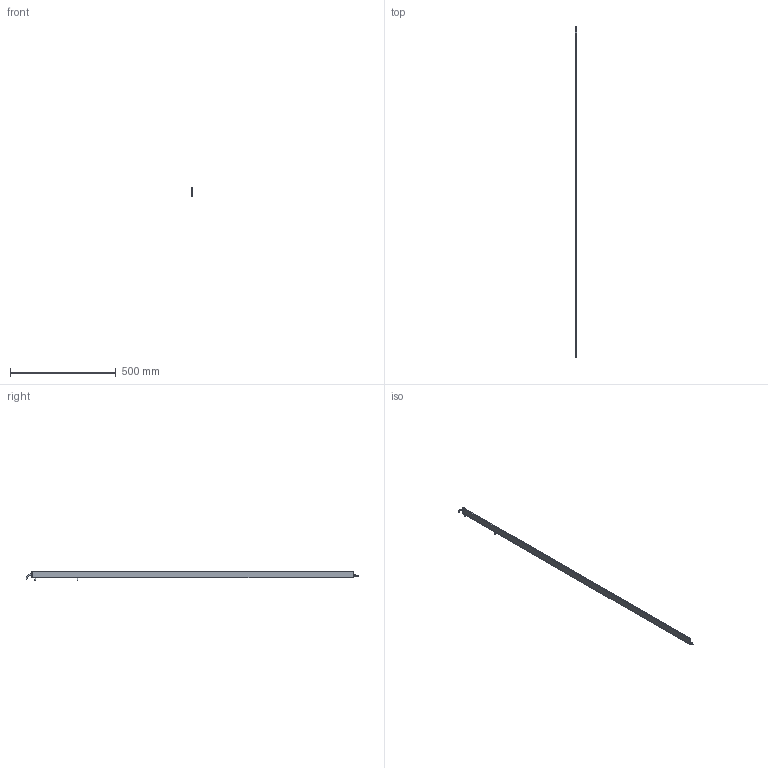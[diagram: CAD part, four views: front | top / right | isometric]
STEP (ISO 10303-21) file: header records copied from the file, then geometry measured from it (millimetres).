
FILE_DESCRIPTION (( 'STEP AP214' ), '1' );
FILE_NAME ('ILG-B-K1-1520mm.STEP', '2017-07-10T12:17:56', ( '' ), ( '' ), 'SwSTEP 2.0', 'SolidWorks 2016', '' );
FILE_SCHEMA (( 'AUTOMOTIVE_DESIGN' ));
Length unit declared in the file: millimetre
Products named in the file (1): ILG-B-K1-1520mm
Bounding box: 9 x 1568.25 x 46.21 mm (x, y, z)
Volume: 171290 mm3; surface area: 252243.8 mm2
Topology: 11 solids, 11 shells, 453 faces, 1150 edges, 724 vertices
Faces by surface type: plane 216, cylinder 152, cone 73, torus 12
Entity records: 18769 total; most frequent: CARTESIAN_POINT 2540, DIRECTION 2424, ORIENTED_EDGE 2284, EDGE_CURVE 1142, AXIS2_PLACEMENT_3D 896, VERTEX_POINT 724, LINE 632, VECTOR 632
